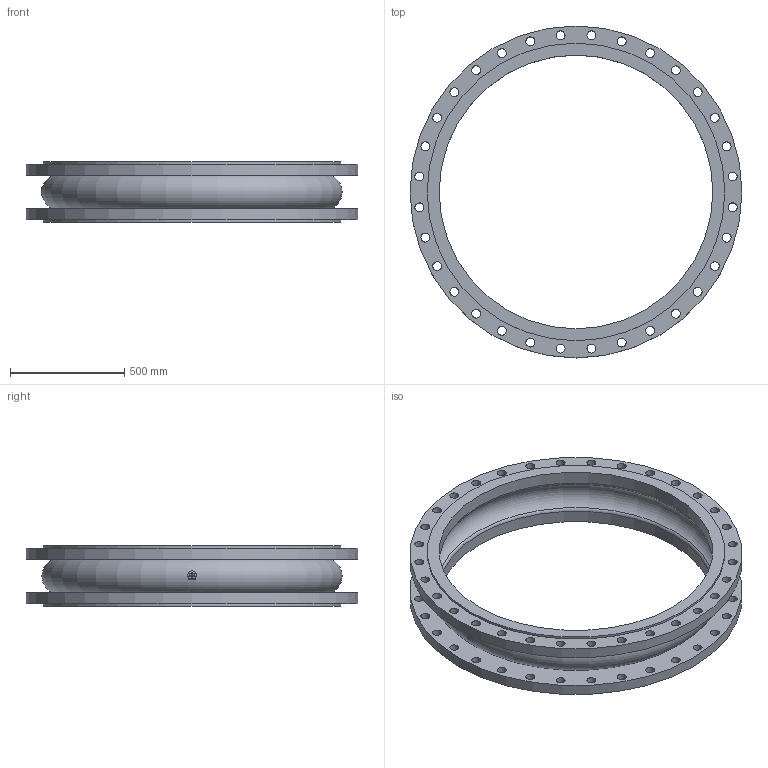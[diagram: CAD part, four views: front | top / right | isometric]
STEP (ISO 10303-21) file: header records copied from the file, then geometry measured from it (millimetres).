
FILE_DESCRIPTION(('STEP AP203'), '1');
FILE_NAME('Êîìïåíñàòîð KMS DN1200 PN10', '', ('UNSPECIFIED'), ('UNSPECIFIED'), 'ASCON STEP Converter 1.6', 'ASCON Math Kernel', '');
FILE_SCHEMA(('CONFIG_CONTROL_DESIGN'));
Length unit declared in the file: millimetre
Bounding box: 1455 x 1455 x 265 mm (x, y, z)
Volume: 58948952.6 mm3; surface area: 4722434.5 mm2
Topology: 1 solids, 1 shells, 99 faces, 264 edges, 174 vertices
Faces by surface type: cylinder 77, plane 13, torus 9
Full cylindrical faces by diameter (mm): 39 x64, 1200 x2, 1305 x2, 1455 x2
Entity records: 5037 total; most frequent: CARTESIAN_POINT 1674, DIRECTION 518, ORIENTED_EDGE 376, EDGE_LOOP 312, AXIS2_PLACEMENT_3D 252, EDGE_CURVE 188, VERTEX_POINT 174, FACE_BOUND 160
